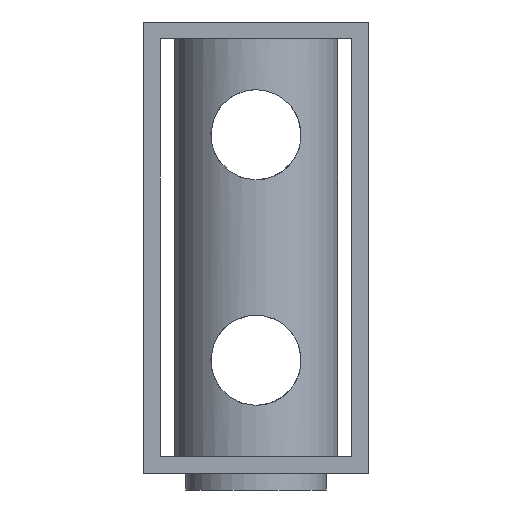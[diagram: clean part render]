
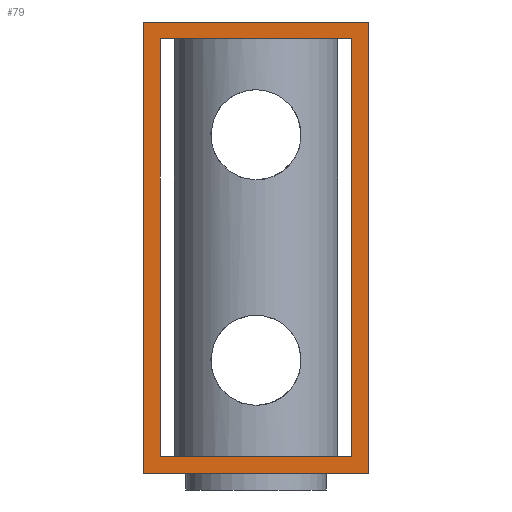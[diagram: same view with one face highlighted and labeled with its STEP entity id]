
A CAD part, front view. The second image highlights one B-rep face of the part: STEP entity #79.
In plain terms, the highlighted planar face has unit normal (0, -1, 0).
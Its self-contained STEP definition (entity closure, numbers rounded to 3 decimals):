
#79 = ADVANCED_FACE( '', ( #186, #187 ), #188, .F. );
#186 = FACE_BOUND( '', #355, .T. );
#187 = FACE_OUTER_BOUND( '', #356, .T. );
#188 = PLANE( '', #357 );
#355 = EDGE_LOOP( '', ( #549, #550, #551, #552 ) );
#356 = EDGE_LOOP( '', ( #553, #554, #555, #556 ) );
#357 = AXIS2_PLACEMENT_3D( '', #557, #558, #559 );
#549 = ORIENTED_EDGE( '', *, *, #776, .T. );
#550 = ORIENTED_EDGE( '', *, *, #777, .T. );
#551 = ORIENTED_EDGE( '', *, *, #778, .T. );
#552 = ORIENTED_EDGE( '', *, *, #779, .T. );
#553 = ORIENTED_EDGE( '', *, *, #741, .F. );
#554 = ORIENTED_EDGE( '', *, *, #780, .F. );
#555 = ORIENTED_EDGE( '', *, *, #781, .F. );
#556 = ORIENTED_EDGE( '', *, *, #782, .F. );
#557 = CARTESIAN_POINT( '', ( 0., -20., 0. ) );
#558 = DIRECTION( '', ( 0., 1., 0. ) );
#559 = DIRECTION( '', ( 0., 0., 1. ) );
#741 = EDGE_CURVE( '', #843, #844, #845, .T. );
#776 = EDGE_CURVE( '', #903, #904, #905, .T. );
#777 = EDGE_CURVE( '', #904, #906, #907, .T. );
#778 = EDGE_CURVE( '', #906, #908, #909, .T. );
#779 = EDGE_CURVE( '', #908, #903, #910, .T. );
#780 = EDGE_CURVE( '', #911, #843, #912, .T. );
#781 = EDGE_CURVE( '', #913, #911, #914, .T. );
#782 = EDGE_CURVE( '', #844, #913, #915, .T. );
#843 = VERTEX_POINT( '', #1138 );
#844 = VERTEX_POINT( '', #1139 );
#845 = LINE( '', #1140, #1141 );
#903 = VERTEX_POINT( '', #1485 );
#904 = VERTEX_POINT( '', #1486 );
#905 = LINE( '', #1487, #1488 );
#906 = VERTEX_POINT( '', #1489 );
#907 = LINE( '', #1490, #1491 );
#908 = VERTEX_POINT( '', #1492 );
#909 = LINE( '', #1493, #1494 );
#910 = LINE( '', #1495, #1496 );
#911 = VERTEX_POINT( '', #1497 );
#912 = LINE( '', #1498, #1499 );
#913 = VERTEX_POINT( '', #1500 );
#914 = LINE( '', #1501, #1502 );
#915 = LINE( '', #1503, #1504 );
#1138 = CARTESIAN_POINT( '', ( -10., -20., -10. ) );
#1139 = CARTESIAN_POINT( '', ( -10., -20., 30. ) );
#1140 = CARTESIAN_POINT( '', ( -10., -20., -10. ) );
#1141 = VECTOR( '', #1727, 1000. );
#1485 = CARTESIAN_POINT( '', ( -8.5, -20., -8.5 ) );
#1486 = CARTESIAN_POINT( '', ( -8.5, -20., 28.5 ) );
#1487 = CARTESIAN_POINT( '', ( -8.5, -20., -8.5 ) );
#1488 = VECTOR( '', #1771, 1000. );
#1489 = CARTESIAN_POINT( '', ( 8.5, -20., 28.5 ) );
#1490 = CARTESIAN_POINT( '', ( -8.5, -20., 28.5 ) );
#1491 = VECTOR( '', #1772, 1000. );
#1492 = CARTESIAN_POINT( '', ( 8.5, -20., -8.5 ) );
#1493 = CARTESIAN_POINT( '', ( 8.5, -20., 28.5 ) );
#1494 = VECTOR( '', #1773, 1000. );
#1495 = CARTESIAN_POINT( '', ( 8.5, -20., -8.5 ) );
#1496 = VECTOR( '', #1774, 1000. );
#1497 = CARTESIAN_POINT( '', ( 10., -20., -10. ) );
#1498 = CARTESIAN_POINT( '', ( 10., -20., -10. ) );
#1499 = VECTOR( '', #1775, 1000. );
#1500 = CARTESIAN_POINT( '', ( 10., -20., 30. ) );
#1501 = CARTESIAN_POINT( '', ( 10., -20., 30. ) );
#1502 = VECTOR( '', #1776, 1000. );
#1503 = CARTESIAN_POINT( '', ( -10., -20., 30. ) );
#1504 = VECTOR( '', #1777, 1000. );
#1727 = DIRECTION( '', ( 0., 0., 1. ) );
#1771 = DIRECTION( '', ( 0., 0., 1. ) );
#1772 = DIRECTION( '', ( 1., 0., 0. ) );
#1773 = DIRECTION( '', ( 0., 0., -1. ) );
#1774 = DIRECTION( '', ( -1., 0., 0. ) );
#1775 = DIRECTION( '', ( -1., 0., 0. ) );
#1776 = DIRECTION( '', ( 0., 0., -1. ) );
#1777 = DIRECTION( '', ( 1., 0., 0. ) );
